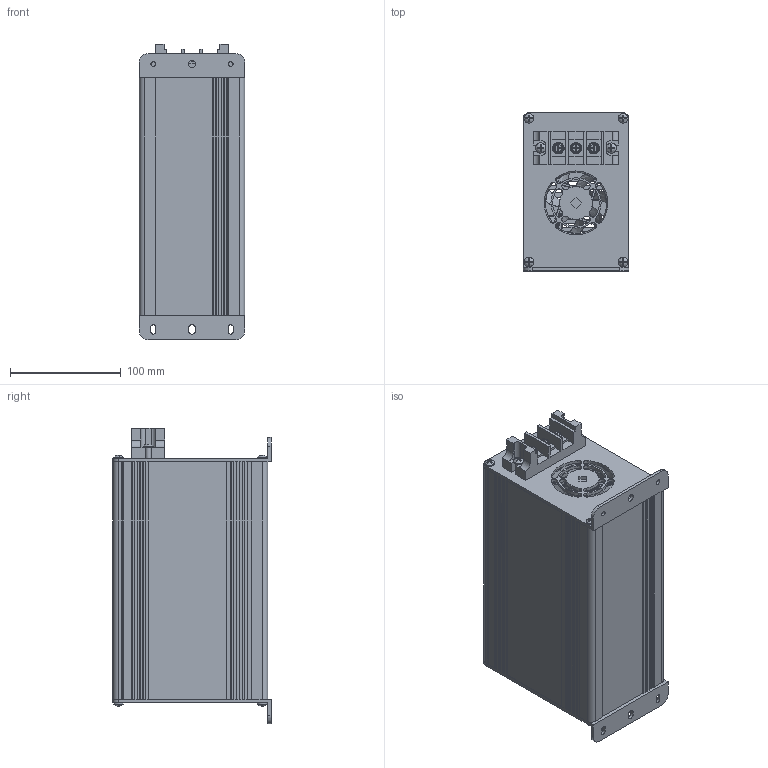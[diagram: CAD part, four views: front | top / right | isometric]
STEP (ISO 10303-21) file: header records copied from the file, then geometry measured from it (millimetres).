
FILE_DESCRIPTION(/* description */ ('','CAx-IF Rec.Pracs.---Representation and Presentation of Product Manufacturing Information (PMI)---4.0---2014-10-13'),/* implementation_level */ '2;1');
FILE_NAME(/* name */ 'H:\04_배터리_전기종\고부하용 배터리 케이스_3D\[NEW] DV 설계자용\DV215.stp',/* time_stamp */ '2022-06-16T12:56:41+09:00',/* author */ ('jjang'),/* organization */ (''),/* preprocessor_version */ 'ST-DEVELOPER v18.1',/* originating_system */ 'Autodesk Inventor 2021',/* authorisation */ '');
FILE_SCHEMA (('AP242_MANAGED_MODEL_BASED_3D_ENGINEERING_MIM_LF { 1 0 10303 442 1 1 4 }'));
Length unit declared in the file: inch
Products named in the file (1): DV215_Shrinkwrap_1
Bounding box: 95.5 x 142.98 x 267.5 mm (x, y, z)
Volume: 459926.3 mm3; surface area: 313275.4 mm2
Topology: 1 solids, 1 shells, 1132 faces, 3211 edges, 2096 vertices
Faces by surface type: plane 623, cylinder 362, bspline 92, torus 43, sphere 7, cone 5
Full cylindrical faces by diameter (mm): 0.9 x2, 3.8 x8, 4.3 x4, 4.4 x2, 4.5 x8, 5 x3, 5.5 x6, 6 x3, 6.5 x1, 8.584 x3, 8.6 x3, 8.8 x8, 9.2 x2, 10 x1, 25.4 x1, 55.4 x1
Entity records: 44703 total; most frequent: CARTESIAN_POINT 14484, ORIENTED_EDGE 6412, DIRECTION 5999, EDGE_CURVE 3206, AXIS2_PLACEMENT_3D 2115, VERTEX_POINT 2096, LINE 1769, VECTOR 1769
